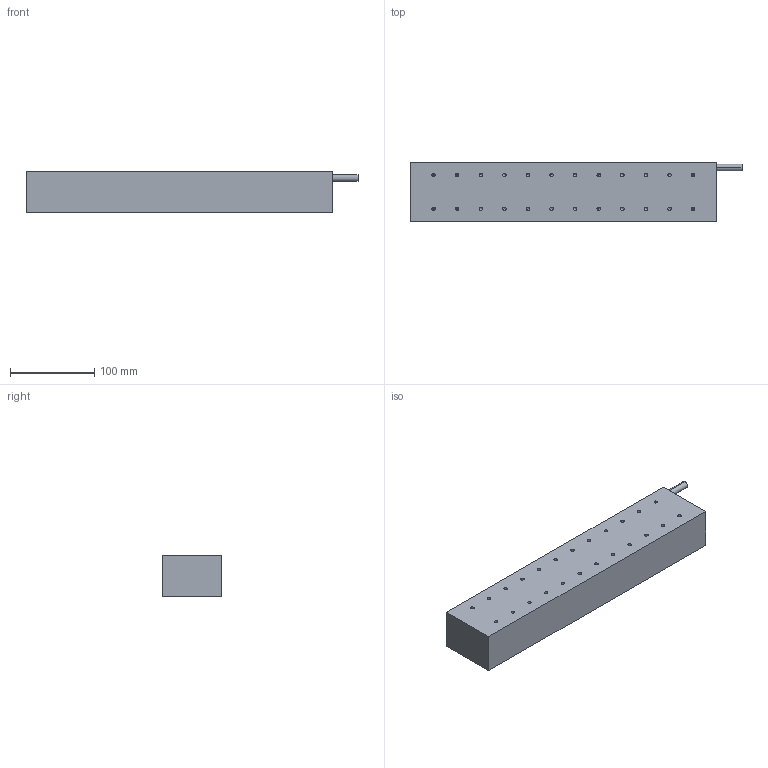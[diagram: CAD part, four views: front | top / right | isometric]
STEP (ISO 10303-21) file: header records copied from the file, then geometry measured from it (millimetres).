
FILE_DESCRIPTION (( 'STEP AP214' ), '1' );
FILE_NAME ('WKM50C雄赽.STEP', '2025-09-05T11:45:11', ( '' ), ( '' ), 'SwSTEP 2.0', 'SolidWorks 2016', '' );
FILE_SCHEMA (( 'AUTOMOTIVE_DESIGN' ));
Length unit declared in the file: millimetre
Products named in the file (1): WKM50C雄赽
Bounding box: 394 x 71 x 49.3 mm (x, y, z)
Volume: 1273648.5 mm3; surface area: 97130.1 mm2
Topology: 1 solids, 1 shells, 105 faces, 258 edges, 132 vertices
Faces by surface type: cylinder 50, cone 48, plane 7
Entity records: 3294 total; most frequent: DIRECTION 522, CARTESIAN_POINT 448, ORIENTED_EDGE 420, EDGE_CURVE 210, AXIS2_PLACEMENT_3D 206, VERTEX_POINT 132, EDGE_LOOP 130, LINE 110
